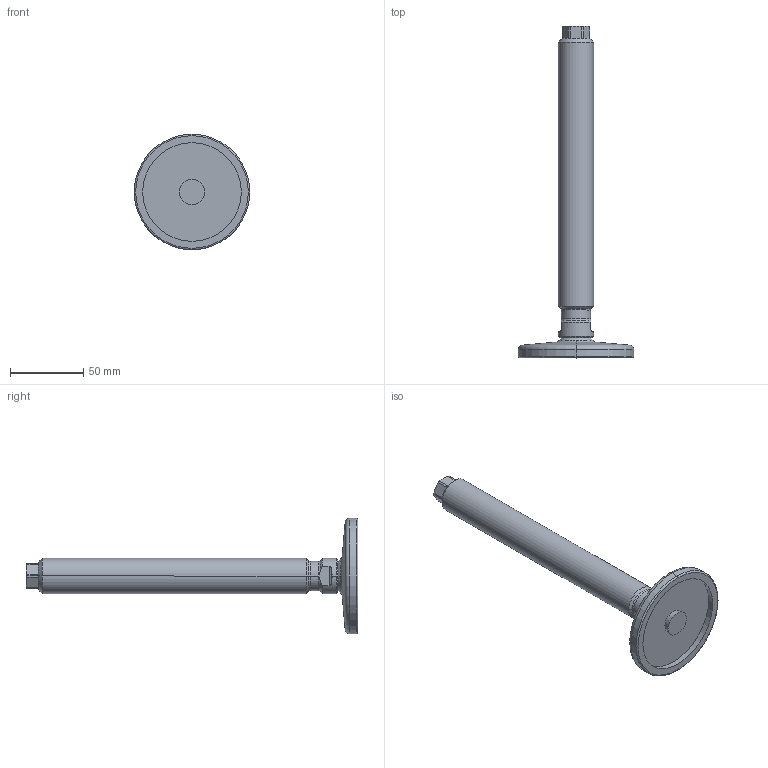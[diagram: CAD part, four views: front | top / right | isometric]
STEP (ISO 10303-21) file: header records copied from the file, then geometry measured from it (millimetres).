
FILE_DESCRIPTION (( 'STEP AP214' ), '1' );
FILE_NAME ('21-80-M24-200-D0-V.step', '2020-10-02T17:35:58', ( '' ), ( '' ), 'SwSTEP 2.0', 'SolidWorks 2019', '' );
FILE_SCHEMA (( 'AUTOMOTIVE_DESIGN' ));
Length unit declared in the file: millimetre
Products named in the file (3): WB21_Spindel_V^WB21_V_M24-200; 21-80-M24-200-D0-V; WB21_Fußteller 21^WB21_V_D0-080-R14-B9 (M24)
Assembly tree (2 placements, depth 2):
  21-80-M24-200-D0-V
    WB21_Fußteller 21^WB21_V_D0-080-R14-B9 (M24)
    WB21_Spindel_V^WB21_V_M24-200
Bounding box: 79 x 226.9 x 79 mm (x, y, z)
Volume: 125254.5 mm3; surface area: 29855.3 mm2
Topology: 2 solids, 2 shells, 79 faces, 177 edges, 105 vertices
Faces by surface type: cylinder 23, cone 21, plane 21, torus 10, sphere 4
Entity records: 2446 total; most frequent: CARTESIAN_POINT 530, DIRECTION 406, ORIENTED_EDGE 354, EDGE_CURVE 177, AXIS2_PLACEMENT_3D 173, VERTEX_POINT 105, CIRCLE 89, EDGE_LOOP 82
